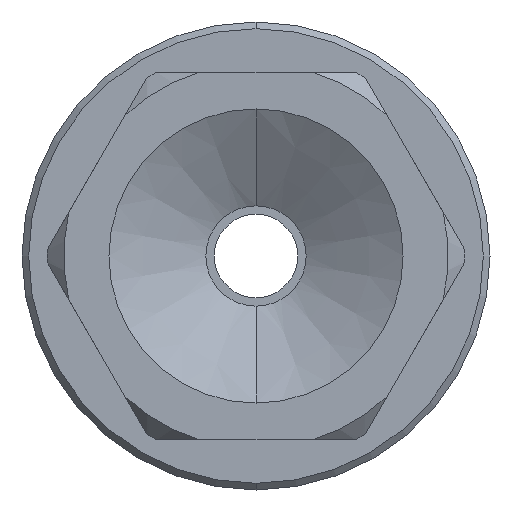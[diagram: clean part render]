
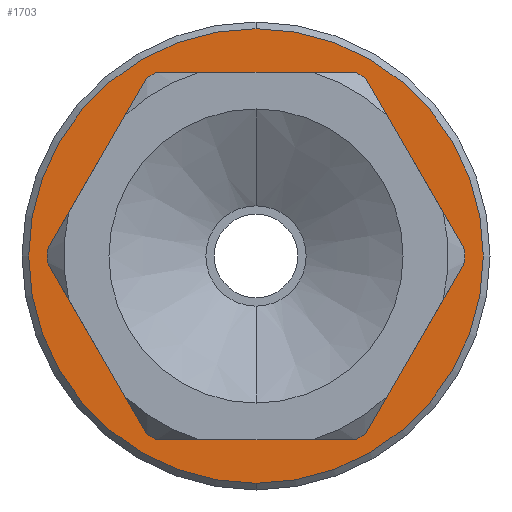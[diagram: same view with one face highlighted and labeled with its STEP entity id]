
A CAD part, front view. The second image highlights one B-rep face of the part: STEP entity #1703.
In plain terms, the highlighted planar face has unit normal (0, -1, 0).
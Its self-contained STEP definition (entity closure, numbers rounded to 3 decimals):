
#7 = VERTEX_POINT ( 'NONE', #745 ) ;
#243 = CIRCLE ( 'NONE', #2338, 3.2 ) ;
#411 = AXIS2_PLACEMENT_3D ( 'NONE', #5561, #4525, #1107 ) ;
#491 = DIRECTION ( 'NONE',  ( 0., -1., 0. ) ) ;
#680 = FACE_BOUND ( 'NONE', #2234, .T. ) ;
#745 = CARTESIAN_POINT ( 'NONE',  ( -12.976, -21.105, 33.2 ) ) ;
#797 = CARTESIAN_POINT ( 'NONE',  ( -12.976, -21.105, 43.2 ) ) ;
#828 = FACE_OUTER_BOUND ( 'NONE', #1467, .T. ) ;
#874 = DIRECTION ( 'NONE',  ( 0., 1., 0. ) ) ;
#930 = EDGE_CURVE ( 'NONE', #3361, #2251, #243, .T. ) ;
#1063 = CIRCLE ( 'NONE', #6106, 3.2 ) ;
#1107 = DIRECTION ( 'NONE',  ( 0., 0., 1. ) ) ;
#1116 = DIRECTION ( 'NONE',  ( 0., 0., 1. ) ) ;
#1176 = CIRCLE ( 'NONE', #5873, 6.8 ) ;
#1467 = EDGE_LOOP ( 'NONE', ( #3509, #5705 ) ) ;
#1666 = EDGE_CURVE ( 'NONE', #4745, #7, #2145, .T. ) ;
#1703 = ADVANCED_FACE ( 'NONE', ( #680, #828 ), #2677, .F. ) ;
#2145 = CIRCLE ( 'NONE', #411, 6.8 ) ;
#2234 = EDGE_LOOP ( 'NONE', ( #2854, #2473 ) ) ;
#2251 = VERTEX_POINT ( 'NONE', #797 ) ;
#2338 = AXIS2_PLACEMENT_3D ( 'NONE', #2466, #3464, #3009 ) ;
#2466 = CARTESIAN_POINT ( 'NONE',  ( -12.976, -21.105, 40. ) ) ;
#2473 = ORIENTED_EDGE ( 'NONE', *, *, #5614, .T. ) ;
#2677 = PLANE ( 'NONE',  #2736 ) ;
#2725 = DIRECTION ( 'NONE',  ( 0., 1., 0. ) ) ;
#2736 = AXIS2_PLACEMENT_3D ( 'NONE', #5959, #2725, #1116 ) ;
#2854 = ORIENTED_EDGE ( 'NONE', *, *, #930, .T. ) ;
#3009 = DIRECTION ( 'NONE',  ( 0., 0., 1. ) ) ;
#3361 = VERTEX_POINT ( 'NONE', #5669 ) ;
#3464 = DIRECTION ( 'NONE',  ( 0., 1., 0. ) ) ;
#3482 = CARTESIAN_POINT ( 'NONE',  ( -12.976, -21.105, 40. ) ) ;
#3509 = ORIENTED_EDGE ( 'NONE', *, *, #1666, .T. ) ;
#3583 = CARTESIAN_POINT ( 'NONE',  ( -12.976, -21.105, 46.8 ) ) ;
#3851 = CARTESIAN_POINT ( 'NONE',  ( -12.976, -21.105, 40. ) ) ;
#3970 = DIRECTION ( 'NONE',  ( 0., 0., 1. ) ) ;
#4292 = EDGE_CURVE ( 'NONE', #7, #4745, #1176, .T. ) ;
#4314 = DIRECTION ( 'NONE',  ( 0., 0., 1. ) ) ;
#4525 = DIRECTION ( 'NONE',  ( 0., -1., 0. ) ) ;
#4745 = VERTEX_POINT ( 'NONE', #3583 ) ;
#5561 = CARTESIAN_POINT ( 'NONE',  ( -12.976, -21.105, 40. ) ) ;
#5614 = EDGE_CURVE ( 'NONE', #2251, #3361, #1063, .T. ) ;
#5669 = CARTESIAN_POINT ( 'NONE',  ( -12.976, -21.105, 36.8 ) ) ;
#5705 = ORIENTED_EDGE ( 'NONE', *, *, #4292, .T. ) ;
#5873 = AXIS2_PLACEMENT_3D ( 'NONE', #3482, #491, #3970 ) ;
#5959 = CARTESIAN_POINT ( 'NONE',  ( -12.976, -21.105, 40. ) ) ;
#6106 = AXIS2_PLACEMENT_3D ( 'NONE', #3851, #874, #4314 ) ;
